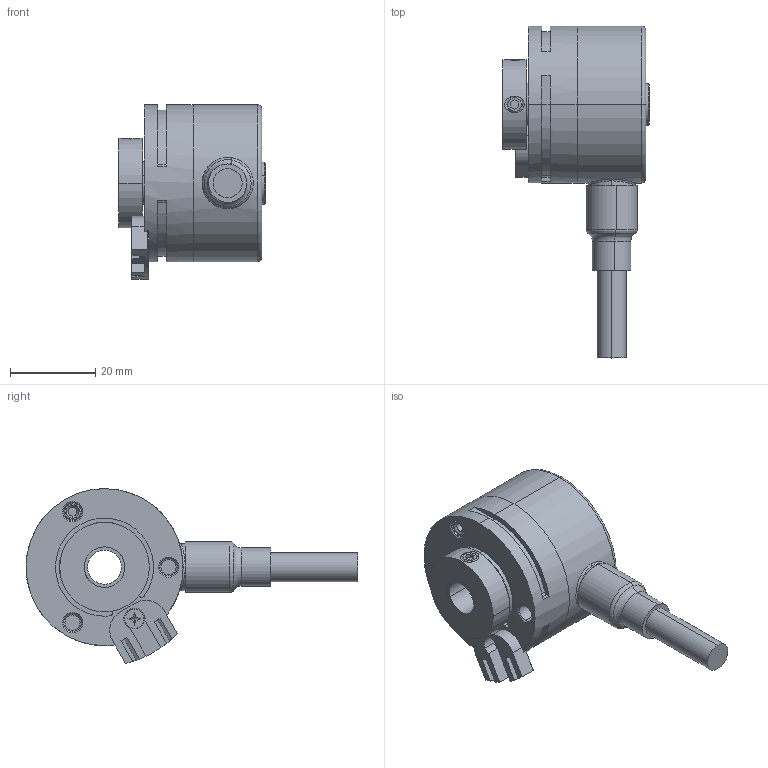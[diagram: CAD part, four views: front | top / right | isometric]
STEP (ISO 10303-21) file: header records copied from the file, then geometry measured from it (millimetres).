
FILE_DESCRIPTION (( 'STEP AP214' ), '1' );
FILE_NAME ('3720.16X1.XXXX.STEP', '2008-11-27T10:47:56', ( 'admin' ), ( 'Fritz Kübler GmbH' ), 'SwSTEP 2.0', 'SolidWorks 2008', '' );
FILE_SCHEMA (( 'AUTOMOTIVE_DESIGN' ));
Length unit declared in the file: millimetre
Products named in the file (1): 3720.16X1.XXXX
Bounding box: 34.3 x 77.8 x 40.95 mm (x, y, z)
Volume: 16184.6 mm3; surface area: 19587.9 mm2
Topology: 12 solids, 12 shells, 761 faces, 1870 edges, 1155 vertices
Faces by surface type: cylinder 279, plane 232, torus 90, bspline 77, cone 58, sphere 25
Entity records: 33676 total; most frequent: CARTESIAN_POINT 7758, DIRECTION 3734, ORIENTED_EDGE 3694, EDGE_CURVE 1847, AXIS2_PLACEMENT_3D 1537, VERTEX_POINT 1145, CIRCLE 852, EDGE_LOOP 818
